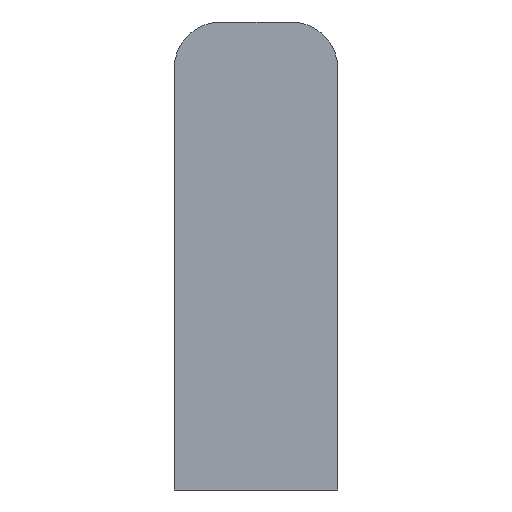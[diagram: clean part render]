
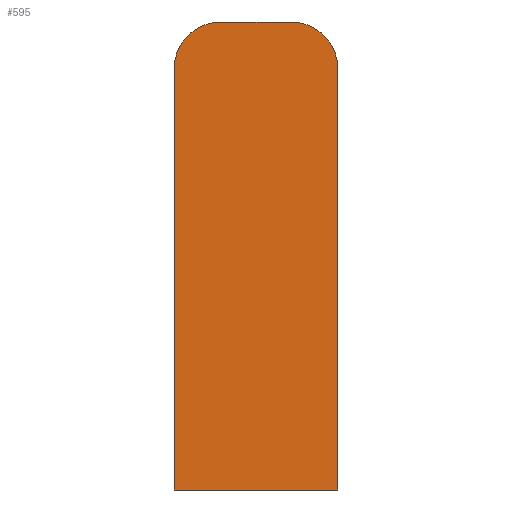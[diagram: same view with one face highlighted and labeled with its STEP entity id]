
A CAD part, front view. The second image highlights one B-rep face of the part: STEP entity #595.
In plain terms, the highlighted planar face has unit normal (0, -1, 0).
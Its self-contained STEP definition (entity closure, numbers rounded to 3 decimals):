
#13 = ORIENTED_EDGE ( 'NONE', *, *, #635, .T. ) ;
#37 = ORIENTED_EDGE ( 'NONE', *, *, #674, .T. ) ;
#47 = ORIENTED_EDGE ( 'NONE', *, *, #654, .T. ) ;
#48 = ORIENTED_EDGE ( 'NONE', *, *, #609, .T. ) ;
#49 = ORIENTED_EDGE ( 'NONE', *, *, #613, .T. ) ;
#53 = ORIENTED_EDGE ( 'NONE', *, *, #710, .T. ) ;
#83 = EDGE_LOOP ( 'NONE', ( #53, #47, #48, #49, #37, #13 ) ) ;
#144 = LINE ( 'NONE', #429, #173 ) ;
#151 = FACE_OUTER_BOUND ( 'NONE', #83, .T. ) ;
#173 = VECTOR ( 'NONE', #436, 1000. ) ;
#179 = LINE ( 'NONE', #464, #192 ) ;
#180 = CIRCLE ( 'NONE', #614, 3. ) ;
#192 = VECTOR ( 'NONE', #466, 1000. ) ;
#204 = LINE ( 'NONE', #491, #223 ) ;
#206 = CIRCLE ( 'NONE', #664, 3. ) ;
#223 = VECTOR ( 'NONE', #503, 1000. ) ;
#239 = LINE ( 'NONE', #521, #240 ) ;
#240 = VECTOR ( 'NONE', #522, 1000. ) ;
#274 = VERTEX_POINT ( 'NONE', #280 ) ;
#278 = VERTEX_POINT ( 'NONE', #315 ) ;
#280 = CARTESIAN_POINT ( 'NONE',  ( -2.25, 0., 13.5 ) ) ;
#288 = VERTEX_POINT ( 'NONE', #320 ) ;
#294 = VERTEX_POINT ( 'NONE', #326 ) ;
#300 = VERTEX_POINT ( 'NONE', #332 ) ;
#307 = VERTEX_POINT ( 'NONE', #339 ) ;
#315 = CARTESIAN_POINT ( 'NONE',  ( -5.25, 0., 10.5 ) ) ;
#320 = CARTESIAN_POINT ( 'NONE',  ( 5.25, 0., 10.5 ) ) ;
#326 = CARTESIAN_POINT ( 'NONE',  ( 5.25, 0., -16.5 ) ) ;
#332 = CARTESIAN_POINT ( 'NONE',  ( -5.25, 0., -16.5 ) ) ;
#339 = CARTESIAN_POINT ( 'NONE',  ( 2.25, 0., 13.5 ) ) ;
#380 = PLANE ( 'NONE',  #661 ) ;
#384 = CARTESIAN_POINT ( 'NONE',  ( 0., 0., -1.5 ) ) ;
#390 = DIRECTION ( 'NONE',  ( 0., 1., 0. ) ) ;
#391 = DIRECTION ( 'NONE',  ( -1., 0., 0. ) ) ;
#429 = CARTESIAN_POINT ( 'NONE',  ( 2.25, 0., 13.5 ) ) ;
#436 = DIRECTION ( 'NONE',  ( -1., 0., 0. ) ) ;
#444 = CARTESIAN_POINT ( 'NONE',  ( -2.25, 0., 10.5 ) ) ;
#446 = DIRECTION ( 'NONE',  ( 0., -1., 0. ) ) ;
#447 = DIRECTION ( 'NONE',  ( -1., 0., 0. ) ) ;
#464 = CARTESIAN_POINT ( 'NONE',  ( 5.25, 0., -16.5 ) ) ;
#466 = DIRECTION ( 'NONE',  ( 1., 0., 0. ) ) ;
#476 = CARTESIAN_POINT ( 'NONE',  ( 2.25, 0., 10.5 ) ) ;
#481 = DIRECTION ( 'NONE',  ( 0., -1., 0. ) ) ;
#482 = DIRECTION ( 'NONE',  ( -1., 0., 0. ) ) ;
#491 = CARTESIAN_POINT ( 'NONE',  ( -5.25, 0., -16.5 ) ) ;
#503 = DIRECTION ( 'NONE',  ( 0., 0., -1. ) ) ;
#521 = CARTESIAN_POINT ( 'NONE',  ( 5.25, 0., -16.5 ) ) ;
#522 = DIRECTION ( 'NONE',  ( 0., 0., 1. ) ) ;
#595 = ADVANCED_FACE ( 'NONE', ( #151 ), #380, .F. ) ;
#609 = EDGE_CURVE ( 'NONE', #307, #274, #144, .T. ) ;
#613 = EDGE_CURVE ( 'NONE', #274, #278, #180, .T. ) ;
#614 = AXIS2_PLACEMENT_3D ( 'NONE', #444, #446, #447 ) ;
#635 = EDGE_CURVE ( 'NONE', #300, #294, #179, .T. ) ;
#654 = EDGE_CURVE ( 'NONE', #288, #307, #206, .T. ) ;
#661 = AXIS2_PLACEMENT_3D ( 'NONE', #384, #390, #391 ) ;
#664 = AXIS2_PLACEMENT_3D ( 'NONE', #476, #481, #482 ) ;
#674 = EDGE_CURVE ( 'NONE', #278, #300, #204, .T. ) ;
#710 = EDGE_CURVE ( 'NONE', #294, #288, #239, .T. ) ;
